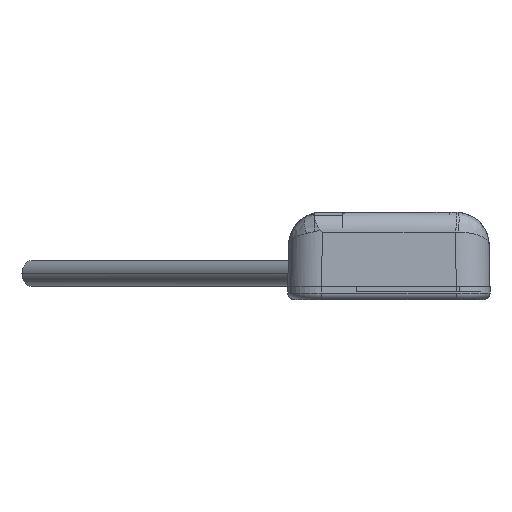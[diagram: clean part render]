
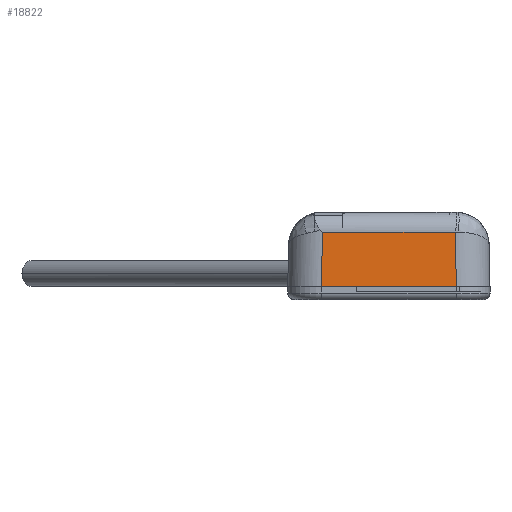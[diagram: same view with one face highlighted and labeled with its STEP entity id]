
A CAD part, front view. The second image highlights one B-rep face of the part: STEP entity #18822.
In plain terms, the highlighted planar face has unit normal (0, -1, 0.018).
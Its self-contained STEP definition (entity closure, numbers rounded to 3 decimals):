
#607=CARTESIAN_POINT('',(14.875,-135.25,0.));
#5819=DIRECTION('',(-1.,0.,0.));
#5820=VECTOR('',#5819,19.723);
#5821=CARTESIAN_POINT('',(34.739,-135.109,8.055));
#5822=LINE('',#5821,#5820);
#5908=DIRECTION('',(-1.,0.,0.));
#5909=VECTOR('',#5908,20.001);
#5910=CARTESIAN_POINT('',(34.876,-135.25,
0.));
#5911=LINE('',#5910,#5909);
#5912=DIRECTION('',(0.017,0.017,1.));
#5913=VECTOR('',#5912,8.055);
#5914=CARTESIAN_POINT('',(14.875,-135.25,
0.));
#5915=LINE('',#5914,#5913);
#5916=DIRECTION('',(0.017,-0.017,-1.));
#5917=VECTOR('',#5916,8.058);
#5918=CARTESIAN_POINT('',(34.739,-135.109,8.055));
#5919=LINE('',#5918,#5917);
#10096=VERTEX_POINT('',#607);
#10097=CARTESIAN_POINT('',(34.876,-135.25,
0.));
#10098=VERTEX_POINT('',#10097);
#10414=CARTESIAN_POINT('',(34.739,-135.109,
8.055));
#10415=VERTEX_POINT('',#10414);
#10416=CARTESIAN_POINT('',(15.015,-135.109,
8.052));
#10417=VERTEX_POINT('',#10416);
#18810=CARTESIAN_POINT('',(24.876,-135.25,0.));
#18811=DIRECTION('',(0.,-1.,0.017));
#18812=DIRECTION('',(0.,0.017,1.));
#18813=AXIS2_PLACEMENT_3D('',#18810,#18811,#18812);
#18814=PLANE('',#18813);
#18815=ORIENTED_EDGE('',*,*,#12390,.T.);
#18817=ORIENTED_EDGE('',*,*,#18816,.T.);
#18818=ORIENTED_EDGE('',*,*,#18646,.F.);
#18819=ORIENTED_EDGE('',*,*,#18804,.T.);
#18820=EDGE_LOOP('',(#18815,#18817,#18818,#18819));
#18821=FACE_OUTER_BOUND('',#18820,.F.);
#12390=EDGE_CURVE('',#10098,#10096,#5911,.T.);
#18646=EDGE_CURVE('',#10415,#10417,#5822,.T.);
#18804=EDGE_CURVE('',#10415,#10098,#5919,.T.);
#18816=EDGE_CURVE('',#10096,#10417,#5915,.T.);
#18822=ADVANCED_FACE('',(#18821),#18814,.T.);
